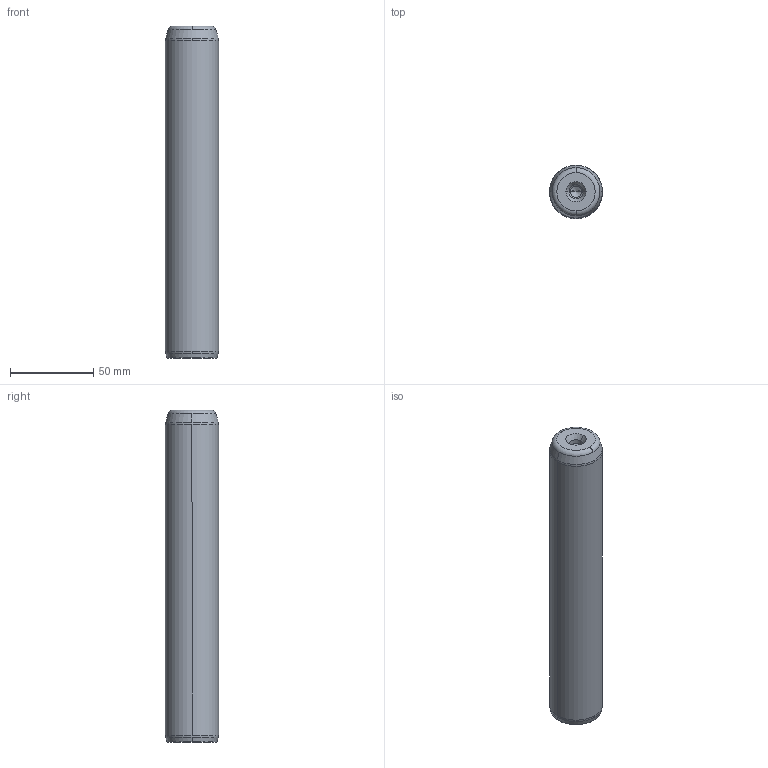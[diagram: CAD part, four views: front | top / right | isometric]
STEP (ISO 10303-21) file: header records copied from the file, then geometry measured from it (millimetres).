
FILE_DESCRIPTION((''),'2;1');
FILE_NAME('P10_032_200.stp','2008-12-23T15:04:19',(''),(''),'Mechanical Desktop 2009','Mechanical Desktop 2009',', , ');
FILE_SCHEMA(('CONFIG_CONTROL_DESIGN'));
Length unit declared in the file: millimetre
Products named in the file (5): Product; ProductAA; blmdl1; ProductA; blmdl1A
Assembly tree (2 placements, depth 3):
  Product
    ProductAA
      blmdl1
  ProductA
  blmdl1A
Bounding box: 32 x 32 x 200 mm (x, y, z)
Volume: 158624.9 mm3; surface area: 21862.1 mm2
Topology: 1 solids, 1 shells, 26 faces, 66 edges, 41 vertices
Faces by surface type: cone 10, torus 8, cylinder 6, plane 2
Entity records: 1012 total; most frequent: DIRECTION 170, CARTESIAN_POINT 134, ORIENTED_EDGE 128, AXIS2_PLACEMENT_3D 77, EDGE_CURVE 64, CIRCLE 48, VERTEX_POINT 41, EDGE_LOOP 27
